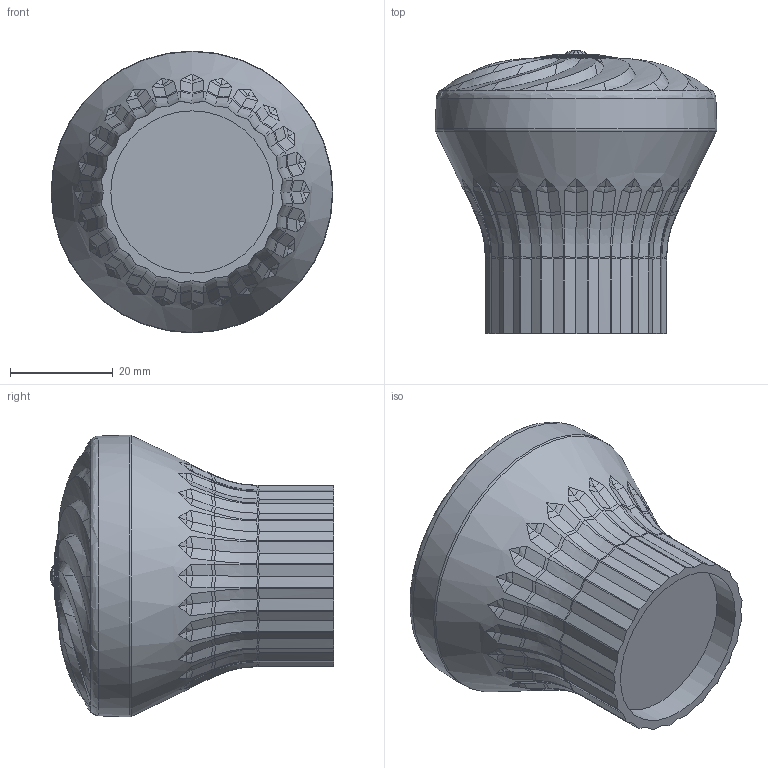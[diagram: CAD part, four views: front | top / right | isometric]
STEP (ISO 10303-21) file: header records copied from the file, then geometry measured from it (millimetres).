
FILE_DESCRIPTION (( 'STEP AP203' ), '1' );
FILE_NAME ('DiGi Module XT3 & 6 - Cover - Turbo.STEP', '2025-08-06T11:25:02', ( '' ), ( '' ), 'SwSTEP 2.0', 'SolidWorks 2025', '' );
FILE_SCHEMA (( 'CONFIG_CONTROL_DESIGN' ));
Products named in the file (1): DiGi Module XT3 & 6 - Cover - Turbo
Bounding box: 54.91 x 55.16 x 54.91 mm (x, y, z)
Volume: 73847.4 mm3; surface area: 10774.5 mm2
Topology: 1 solids, 1 shells, 683 faces, 1736 edges, 1054 vertices
Faces by surface type: bspline 602, plane 28, torus 26, cylinder 25, cone 2
Full cylindrical faces by diameter (mm): 31.6 x1
Entity records: 42809 total; most frequent: CARTESIAN_POINT 30575, ORIENTED_EDGE 3430, EDGE_CURVE 1715, B_SPLINE_CURVE_WITH_KNOTS 1140, VERTEX_POINT 1052, DIRECTION 816, EDGE_LOOP 701, FACE_OUTER_BOUND 686
